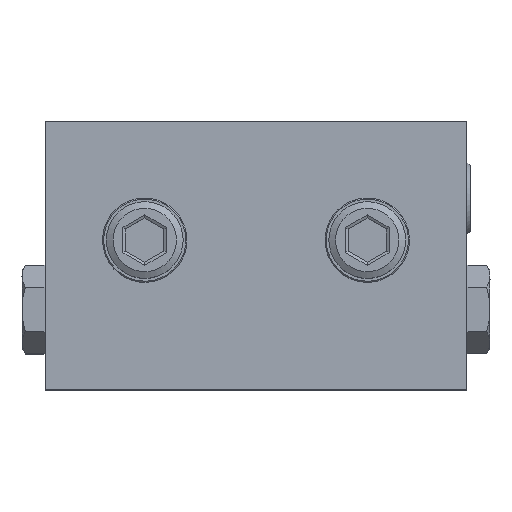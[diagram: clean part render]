
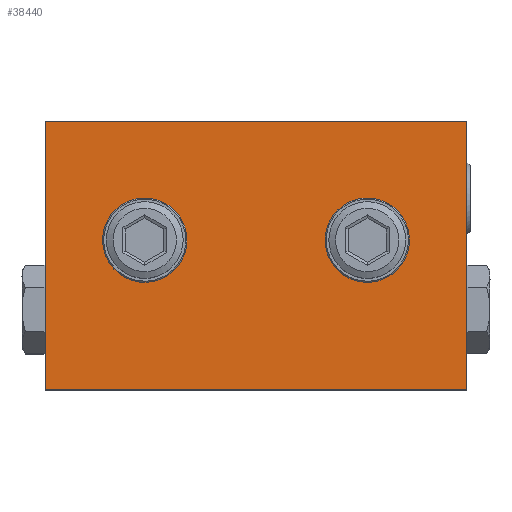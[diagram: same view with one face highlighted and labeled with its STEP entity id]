
A CAD part, top view. The second image highlights one B-rep face of the part: STEP entity #38440.
In plain terms, the highlighted planar face has unit normal (0, 0, 1) as drawn and (0, 0, -1) by its records, which use the part's own axes.
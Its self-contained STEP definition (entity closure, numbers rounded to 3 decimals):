
#1234 = EDGE_CURVE ( 'NONE', #27699, #22742, #29680, .T. ) ;
#1591 = DIRECTION ( 'NONE',  ( 0., -1., 0. ) ) ;
#2133 = ORIENTED_EDGE ( 'NONE', *, *, #13375, .F. ) ;
#2902 = DIRECTION ( 'NONE',  ( 0., 0., -1. ) ) ;
#3067 = AXIS2_PLACEMENT_3D ( 'NONE', #38765, #8082, #20574 ) ;
#3134 = VECTOR ( 'NONE', #1591, 1000. ) ;
#4753 = ORIENTED_EDGE ( 'NONE', *, *, #1234, .F. ) ;
#4765 = VECTOR ( 'NONE', #33860, 1000. ) ;
#5240 = FACE_OUTER_BOUND ( 'NONE', #24224, .T. ) ;
#5419 = VERTEX_POINT ( 'NONE', #26469 ) ;
#5510 = CARTESIAN_POINT ( 'NONE',  ( 11.4, -15.5, -4.85 ) ) ;
#6432 = CARTESIAN_POINT ( 'NONE',  ( 0., 0., -4.85 ) ) ;
#7024 = CARTESIAN_POINT ( 'NONE',  ( 0., 0., -4.85 ) ) ;
#8082 = DIRECTION ( 'NONE',  ( 0., 0., -1. ) ) ;
#8325 = ORIENTED_EDGE ( 'NONE', *, *, #22514, .F. ) ;
#11729 = FACE_BOUND ( 'NONE', #26661, .T. ) ;
#12068 = ORIENTED_EDGE ( 'NONE', *, *, #35840, .F. ) ;
#12841 = EDGE_LOOP ( 'NONE', ( #2133 ) ) ;
#13197 = VECTOR ( 'NONE', #25594, 1000. ) ;
#13375 = EDGE_CURVE ( 'NONE', #30314, #30314, #20584, .T. ) ;
#13882 = CARTESIAN_POINT ( 'NONE',  ( -27.5, -35., -4.85 ) ) ;
#14908 = EDGE_CURVE ( 'NONE', #20850, #20850, #23084, .T. ) ;
#15322 = ORIENTED_EDGE ( 'NONE', *, *, #14908, .F. ) ;
#17365 = CARTESIAN_POINT ( 'NONE',  ( -27.5, 0., -4.85 ) ) ;
#17424 = ORIENTED_EDGE ( 'NONE', *, *, #33623, .F. ) ;
#20403 = FACE_BOUND ( 'NONE', #12841, .T. ) ;
#20574 = DIRECTION ( 'NONE',  ( -1., 0., 0. ) ) ;
#20584 = CIRCLE ( 'NONE', #21876, 3.1 ) ;
#20687 = DIRECTION ( 'NONE',  ( 1., 0., 0. ) ) ;
#20850 = VERTEX_POINT ( 'NONE', #5510 ) ;
#20979 = PLANE ( 'NONE',  #33862 ) ;
#21253 = CARTESIAN_POINT ( 'NONE',  ( -11.4, -15.5, -4.85 ) ) ;
#21876 = AXIS2_PLACEMENT_3D ( 'NONE', #33409, #2902, #20687 ) ;
#22514 = EDGE_CURVE ( 'NONE', #5419, #23054, #30793, .T. ) ;
#22742 = VERTEX_POINT ( 'NONE', #35466 ) ;
#22851 = CARTESIAN_POINT ( 'NONE',  ( 0., -35., -4.85 ) ) ;
#23054 = VERTEX_POINT ( 'NONE', #26869 ) ;
#23084 = CIRCLE ( 'NONE', #3067, 3.1 ) ;
#23381 = LINE ( 'NONE', #17365, #3134 ) ;
#24224 = EDGE_LOOP ( 'NONE', ( #12068, #4753, #17424, #8325 ) ) ;
#25594 = DIRECTION ( 'NONE',  ( 0., 1., 0. ) ) ;
#26469 = CARTESIAN_POINT ( 'NONE',  ( 27.5, 0., -4.85 ) ) ;
#26661 = EDGE_LOOP ( 'NONE', ( #15322 ) ) ;
#26869 = CARTESIAN_POINT ( 'NONE',  ( -27.5, 0., -4.85 ) ) ;
#27699 = VERTEX_POINT ( 'NONE', #13882 ) ;
#28834 = CARTESIAN_POINT ( 'NONE',  ( 27.5, 0., -4.85 ) ) ;
#29502 = DIRECTION ( 'NONE',  ( 1., 0., 0. ) ) ;
#29680 = LINE ( 'NONE', #22851, #36910 ) ;
#30113 = LINE ( 'NONE', #28834, #13197 ) ;
#30314 = VERTEX_POINT ( 'NONE', #21253 ) ;
#30793 = LINE ( 'NONE', #7024, #4765 ) ;
#30838 = DIRECTION ( 'NONE',  ( 1., 0., 0. ) ) ;
#33409 = CARTESIAN_POINT ( 'NONE',  ( -14.5, -15.5, -4.85 ) ) ;
#33493 = DIRECTION ( 'NONE',  ( 0., 0., 1. ) ) ;
#33623 = EDGE_CURVE ( 'NONE', #23054, #27699, #23381, .T. ) ;
#33860 = DIRECTION ( 'NONE',  ( -1., 0., 0. ) ) ;
#33862 = AXIS2_PLACEMENT_3D ( 'NONE', #6432, #33493, #30838 ) ;
#35466 = CARTESIAN_POINT ( 'NONE',  ( 27.5, -35., -4.85 ) ) ;
#35840 = EDGE_CURVE ( 'NONE', #22742, #5419, #30113, .T. ) ;
#36910 = VECTOR ( 'NONE', #29502, 1000. ) ;
#38440 = ADVANCED_FACE ( 'NONE', ( #5240, #11729, #20403 ), #20979, .F. ) ;
#38765 = CARTESIAN_POINT ( 'NONE',  ( 14.5, -15.5, -4.85 ) ) ;
